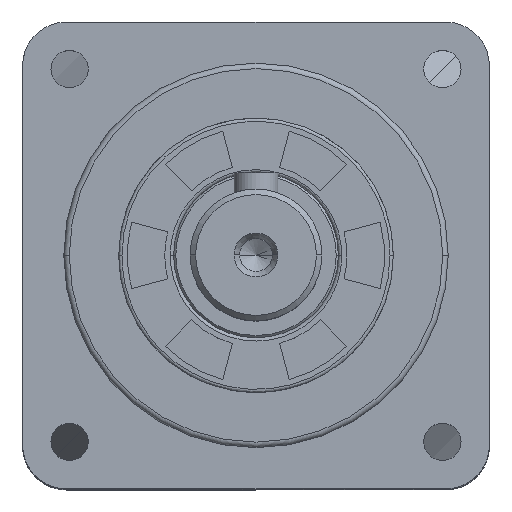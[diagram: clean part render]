
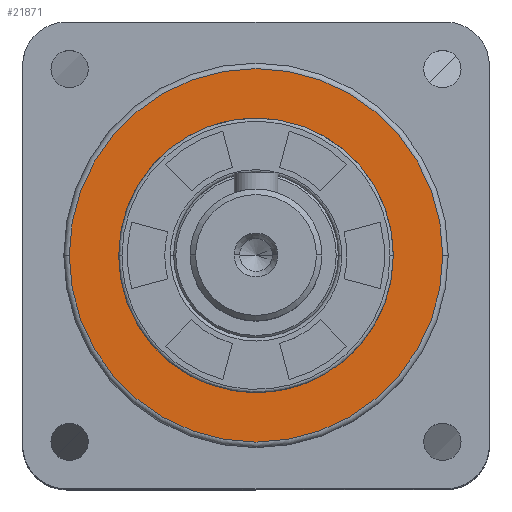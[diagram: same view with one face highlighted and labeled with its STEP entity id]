
A CAD part, top view. The second image highlights one B-rep face of the part: STEP entity #21871.
In plain terms, the highlighted planar face has unit normal (0, 0, 1).
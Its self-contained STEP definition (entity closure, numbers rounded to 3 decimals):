
#26 = DIRECTION ( 'NONE',  ( 0., 0., 1. ) ) ;
#1036 = AXIS2_PLACEMENT_3D ( 'NONE', #16472, #9261, #3762 ) ;
#2013 = EDGE_CURVE ( 'NONE', #16243, #18940, #19317, .T. ) ;
#2239 = AXIS2_PLACEMENT_3D ( 'NONE', #18143, #14638, #6937 ) ;
#3202 = AXIS2_PLACEMENT_3D ( 'NONE', #12944, #5862, #9543 ) ;
#3762 = DIRECTION ( 'NONE',  ( 1., 0., 0. ) ) ;
#4072 = EDGE_LOOP ( 'NONE', ( #16979, #14120 ) ) ;
#5862 = DIRECTION ( 'NONE',  ( 0., 0., 1. ) ) ;
#6044 = ORIENTED_EDGE ( 'NONE', *, *, #20690, .T. ) ;
#6937 = DIRECTION ( 'NONE',  ( 1., 0., 0. ) ) ;
#7640 = CIRCLE ( 'NONE', #2239, 12.5 ) ;
#8821 = DIRECTION ( 'NONE',  ( 0., 0., 1. ) ) ;
#9261 = DIRECTION ( 'NONE',  ( 0., 0., 1. ) ) ;
#9543 = DIRECTION ( 'NONE',  ( 1., 0., 0. ) ) ;
#9732 = VERTEX_POINT ( 'NONE', #12403 ) ;
#10032 = CARTESIAN_POINT ( 'NONE',  ( -12.5, 0., 14.8 ) ) ;
#10424 = PLANE ( 'NONE',  #21990 ) ;
#10791 = CARTESIAN_POINT ( 'NONE',  ( 0., 0., 14.8 ) ) ;
#11104 = DIRECTION ( 'NONE',  ( 1., 0., 0. ) ) ;
#11663 = FACE_OUTER_BOUND ( 'NONE', #19249, .T. ) ;
#12300 = CARTESIAN_POINT ( 'NONE',  ( 17., 0., 14.8 ) ) ;
#12403 = CARTESIAN_POINT ( 'NONE',  ( 12.5, 0., 14.8 ) ) ;
#12944 = CARTESIAN_POINT ( 'NONE',  ( 0., 0., 14.8 ) ) ;
#14120 = ORIENTED_EDGE ( 'NONE', *, *, #19630, .F. ) ;
#14302 = DIRECTION ( 'NONE',  ( 1., 0., 0. ) ) ;
#14638 = DIRECTION ( 'NONE',  ( 0., 0., 1. ) ) ;
#14640 = ORIENTED_EDGE ( 'NONE', *, *, #2013, .T. ) ;
#15102 = FACE_BOUND ( 'NONE', #4072, .T. ) ;
#16051 = CARTESIAN_POINT ( 'NONE',  ( 0., 0., 14.8 ) ) ;
#16243 = VERTEX_POINT ( 'NONE', #21397 ) ;
#16472 = CARTESIAN_POINT ( 'NONE',  ( 0., 0., 14.8 ) ) ;
#16935 = VERTEX_POINT ( 'NONE', #10032 ) ;
#16979 = ORIENTED_EDGE ( 'NONE', *, *, #21592, .F. ) ;
#18143 = CARTESIAN_POINT ( 'NONE',  ( 0., 0., 14.8 ) ) ;
#18940 = VERTEX_POINT ( 'NONE', #12300 ) ;
#19249 = EDGE_LOOP ( 'NONE', ( #6044, #14640 ) ) ;
#19317 = CIRCLE ( 'NONE', #21790, 17. ) ;
#19364 = CIRCLE ( 'NONE', #3202, 12.5 ) ;
#19630 = EDGE_CURVE ( 'NONE', #16935, #9732, #7640, .T. ) ;
#20690 = EDGE_CURVE ( 'NONE', #18940, #16243, #21919, .T. ) ;
#21397 = CARTESIAN_POINT ( 'NONE',  ( -17., 0., 14.8 ) ) ;
#21592 = EDGE_CURVE ( 'NONE', #9732, #16935, #19364, .T. ) ;
#21790 = AXIS2_PLACEMENT_3D ( 'NONE', #10791, #26, #11104 ) ;
#21871 = ADVANCED_FACE ( 'NONE', ( #15102, #11663 ), #10424, .T. ) ;
#21919 = CIRCLE ( 'NONE', #1036, 17. ) ;
#21990 = AXIS2_PLACEMENT_3D ( 'NONE', #16051, #8821, #14302 ) ;
